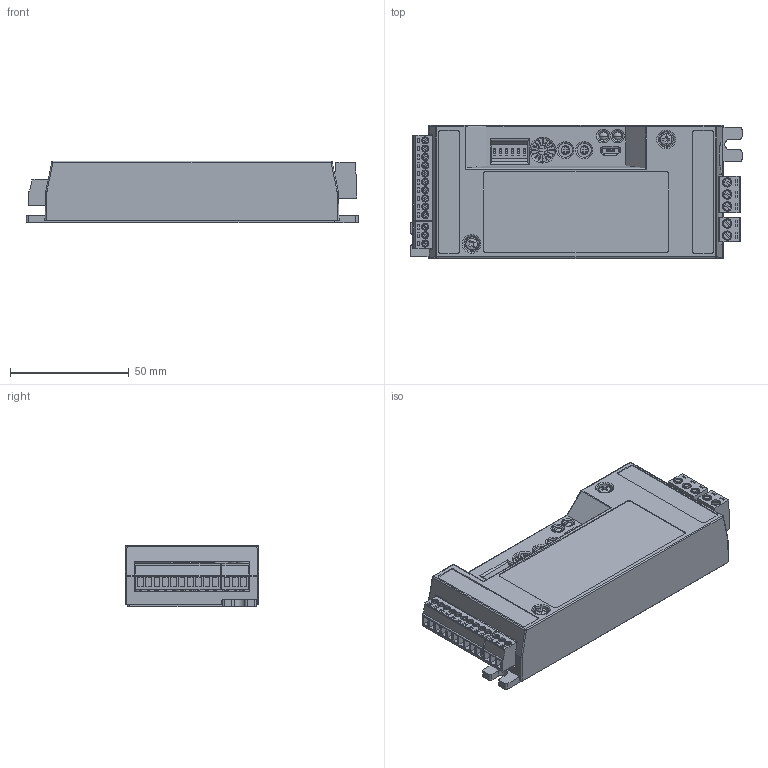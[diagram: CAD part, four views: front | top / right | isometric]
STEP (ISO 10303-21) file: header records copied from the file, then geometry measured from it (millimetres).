
FILE_DESCRIPTION (( 'STEP AP214' ), '1' );
FILE_NAME ('ZDRV.C21-200L-R.STEP', '2021-04-29T08:26:17', ( '' ), ( '' ), 'SwSTEP 2.0', 'SolidWorks 2019', '' );
FILE_SCHEMA (( 'AUTOMOTIVE_DESIGN' ));
Length unit declared in the file: millimetre
Products named in the file (11): KF2EDGK-3.5-3P.step; ZDRV.C21-200L-R; KF2EDGK-5.08-2P.step; ZDRV.C21-200L-R#掛极.step; KF2EDGK-5.08-3P.step; KF2EDGK-3.5-10P.step
Assembly tree (5 placements, depth 2):
  KF2EDGK-3.5-3P.step
  ZDRV.C21-200L-R
    ZDRV.C21-200L-R#掛极.step
    KF2EDGK-5.08-2P.step
    KF2EDGK-5.08-3P.step
    KF2EDGK-3.5-10P.step
    KF2EDGK-3.5-3P.step
  KF2EDGK-5.08-2P.step
  ZDRV.C21-200L-R#掛极.step
  KF2EDGK-3.5-10P.step
Bounding box: 140 x 56.48 x 26 mm (x, y, z)
Volume: 79677.7 mm3; surface area: 74389.5 mm2
Topology: 5 solids, 26 shells, 3287 faces, 8464 edges, 5494 vertices
Faces by surface type: plane 2139, cylinder 628, bspline 275, torus 135, cone 87, sphere 23
Entity records: 114794 total; most frequent: CARTESIAN_POINT 35967, ORIENTED_EDGE 16886, DIRECTION 15087, EDGE_CURVE 8443, LINE 5893, VECTOR 5893, VERTEX_POINT 5494, AXIS2_PLACEMENT_3D 4597
